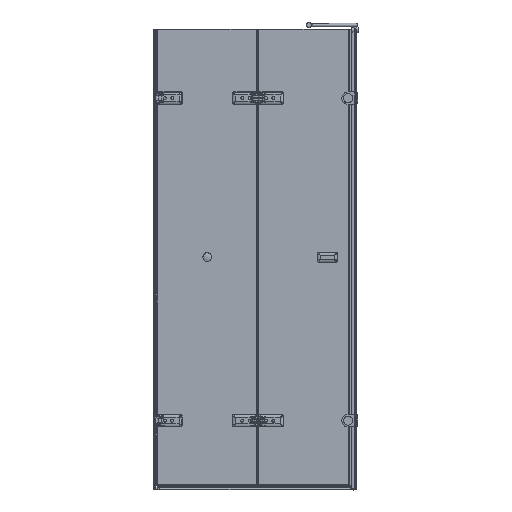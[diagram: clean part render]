
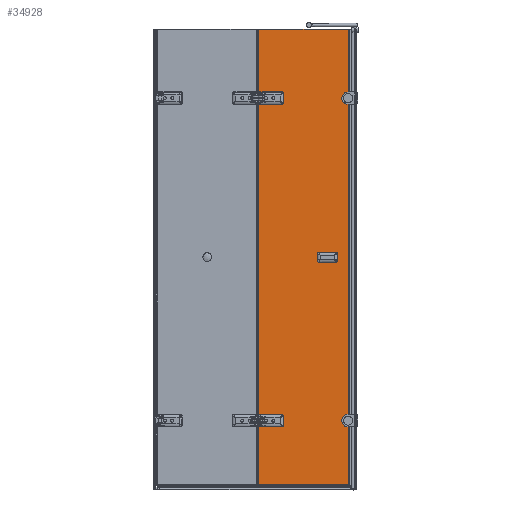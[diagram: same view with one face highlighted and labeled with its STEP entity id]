
A CAD part, left-side view. The second image highlights one B-rep face of the part: STEP entity #34928.
In plain terms, the highlighted planar face has unit normal (-1, 0, 0).
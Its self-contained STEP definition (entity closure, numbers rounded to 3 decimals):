
#2258=LINE($,#69144,#5393);
#2261=LINE($,#69178,#5396);
#2731=LINE($,#71365,#5866);
#3648=LINE($,#75248,#6783);
#3701=LINE($,#75381,#6836);
#3702=LINE($,#75385,#6837);
#3703=LINE($,#75388,#6838);
#3704=LINE($,#75390,#6839);
#3705=LINE($,#75391,#6840);
#3706=LINE($,#75393,#6841);
#3707=LINE($,#75397,#6842);
#3708=LINE($,#75400,#6843);
#5393=VECTOR($,#42761,1362.);
#5396=VECTOR($,#42772,256.4);
#5866=VECTOR($,#44144,281.);
#6783=VECTOR($,#46605,392.249);
#6836=VECTOR($,#46780,30.249);
#6837=VECTOR($,#46783,18.);
#6838=VECTOR($,#46786,30.249);
#6839=VECTOR($,#46787,392.249);
#6840=VECTOR($,#46788,1975.4);
#6841=VECTOR($,#46789,30.249);
#6842=VECTOR($,#46792,18.);
#6843=VECTOR($,#46795,30.249);
#7274=FACE_BOUND($,#11458,.T.);
#7275=FACE_BOUND($,#11459,.T.);
#7276=FACE_BOUND($,#11460,.T.);
#11458=EDGE_LOOP($,(#29775));
#11459=EDGE_LOOP($,(#29776));
#11460=EDGE_LOOP($,(#29777,#29778,#29779,#29780,#29781,#29782,#29783,#29784,
#29785,#29786,#29787,#29788,#29789,#29790,#29791,#29792));
#12217=CIRCLE($,#36420,6.5);
#12395=CIRCLE($,#36877,6.5);
#12734=CIRCLE($,#37908,10.);
#12735=CIRCLE($,#37909,10.);
#12736=CIRCLE($,#37910,10.);
#12737=CIRCLE($,#37911,10.);
#14351=VERTEX_POINT($,#68187);
#14539=VERTEX_POINT($,#69141);
#14540=VERTEX_POINT($,#69143);
#14546=VERTEX_POINT($,#69166);
#14547=VERTEX_POINT($,#69177);
#14820=VERTEX_POINT($,#70419);
#15004=VERTEX_POINT($,#71362);
#15005=VERTEX_POINT($,#71364);
#15748=VERTEX_POINT($,#75247);
#15767=VERTEX_POINT($,#75380);
#15768=VERTEX_POINT($,#75382);
#15769=VERTEX_POINT($,#75384);
#15770=VERTEX_POINT($,#75386);
#15771=VERTEX_POINT($,#75389);
#15772=VERTEX_POINT($,#75392);
#15773=VERTEX_POINT($,#75394);
#15774=VERTEX_POINT($,#75396);
#15775=VERTEX_POINT($,#75398);
#18163=EDGE_CURVE($,#14351,#14351,#12217,.T.);
#18463=EDGE_CURVE($,#14540,#14539,#2258,.T.);
#18471=EDGE_CURVE($,#14547,#14546,#2261,.T.);
#18900=EDGE_CURVE($,#14820,#14820,#12395,.T.);
#19193=EDGE_CURVE($,#15005,#15004,#2731,.T.);
#20448=EDGE_CURVE($,#15005,#15748,#3648,.T.);
#20512=EDGE_CURVE($,#14539,#15767,#3701,.T.);
#20513=EDGE_CURVE($,#15768,#15767,#12734,.T.);
#20514=EDGE_CURVE($,#15768,#15769,#3702,.T.);
#20515=EDGE_CURVE($,#15770,#15769,#12735,.T.);
#20516=EDGE_CURVE($,#15770,#14547,#3703,.T.);
#20517=EDGE_CURVE($,#15771,#14546,#3704,.T.);
#20518=EDGE_CURVE($,#15771,#15748,#3705,.T.);
#20519=EDGE_CURVE($,#15004,#15772,#3706,.T.);
#20520=EDGE_CURVE($,#15773,#15772,#12736,.T.);
#20521=EDGE_CURVE($,#15773,#15774,#3707,.T.);
#20522=EDGE_CURVE($,#15775,#15774,#12737,.T.);
#20523=EDGE_CURVE($,#15775,#14540,#3708,.T.);
#29775=ORIENTED_EDGE($,*,*,#18163,.T.);
#29776=ORIENTED_EDGE($,*,*,#18900,.T.);
#29777=ORIENTED_EDGE($,*,*,#18463,.T.);
#29778=ORIENTED_EDGE($,*,*,#20512,.T.);
#29779=ORIENTED_EDGE($,*,*,#20513,.F.);
#29780=ORIENTED_EDGE($,*,*,#20514,.T.);
#29781=ORIENTED_EDGE($,*,*,#20515,.F.);
#29782=ORIENTED_EDGE($,*,*,#20516,.T.);
#29783=ORIENTED_EDGE($,*,*,#18471,.T.);
#29784=ORIENTED_EDGE($,*,*,#20517,.F.);
#29785=ORIENTED_EDGE($,*,*,#20518,.T.);
#29786=ORIENTED_EDGE($,*,*,#20448,.F.);
#29787=ORIENTED_EDGE($,*,*,#19193,.T.);
#29788=ORIENTED_EDGE($,*,*,#20519,.T.);
#29789=ORIENTED_EDGE($,*,*,#20520,.F.);
#29790=ORIENTED_EDGE($,*,*,#20521,.T.);
#29791=ORIENTED_EDGE($,*,*,#20522,.F.);
#29792=ORIENTED_EDGE($,*,*,#20523,.T.);
#31408=PLANE($,#37907);
#34928=ADVANCED_FACE($,(#7274,#7275,#7276),#31408,.T.);
#36420=AXIS2_PLACEMENT_3D($,#68188,#42174,#42175);
#36877=AXIS2_PLACEMENT_3D($,#70420,#43566,#43567);
#37907=AXIS2_PLACEMENT_3D($,#75379,#46778,#46779);
#37908=AXIS2_PLACEMENT_3D($,#75383,#46781,#46782);
#37909=AXIS2_PLACEMENT_3D($,#75387,#46784,#46785);
#37910=AXIS2_PLACEMENT_3D($,#75395,#46790,#46791);
#37911=AXIS2_PLACEMENT_3D($,#75399,#46793,#46794);
#42174=DIRECTION('center_axis',(1.,0.,0.));
#42175=DIRECTION('ref_axis',(0.,1.,0.));
#42761=DIRECTION($,(0.,0.,-1.));
#42772=DIRECTION($,(0.,0.,-1.));
#43566=DIRECTION('center_axis',(1.,0.,0.));
#43567=DIRECTION('ref_axis',(0.,1.,0.));
#44144=DIRECTION($,(0.,0.,-1.));
#46605=DIRECTION($,(0.,-1.,0.));
#46778=DIRECTION('center_axis',(-1.,0.,0.));
#46779=DIRECTION('ref_axis',(0.,-1.,0.));
#46780=DIRECTION($,(0.,-1.,0.));
#46781=DIRECTION('center_axis',(-1.,0.,0.));
#46782=DIRECTION('ref_axis',(0.,-0.707,0.707));
#46783=DIRECTION($,(0.,0.,-1.));
#46784=DIRECTION('center_axis',(-1.,0.,0.));
#46785=DIRECTION('ref_axis',(0.,-0.707,-0.707));
#46786=DIRECTION($,(0.,1.,0.));
#46787=DIRECTION($,(0.,1.,0.));
#46788=DIRECTION($,(0.,0.,1.));
#46789=DIRECTION($,(0.,-1.,0.));
#46790=DIRECTION('center_axis',(-1.,0.,0.));
#46791=DIRECTION('ref_axis',(0.,-0.707,0.707));
#46792=DIRECTION($,(0.,0.,-1.));
#46793=DIRECTION('center_axis',(-1.,0.,0.));
#46794=DIRECTION('ref_axis',(0.,-0.707,-0.707));
#46795=DIRECTION($,(0.,1.,0.));
#68187=CARTESIAN_POINT('',(1240.119,318.456,-214.055));
#68188=CARTESIAN_POINT('Origin',(1240.119,324.956,-214.055));
#69141=CARTESIAN_POINT('',(1240.119,388.205,-195.055));
#69143=CARTESIAN_POINT('',(1240.119,388.205,1166.945));
#69144=CARTESIAN_POINT($,(1240.119,388.205,-204.055));
#69166=CARTESIAN_POINT('',(1240.119,388.205,-489.455));
#69177=CARTESIAN_POINT('',(1240.119,388.205,-233.055));
#69178=CARTESIAN_POINT($,(1240.119,388.205,-494.055));
#70419=CARTESIAN_POINT('',(1240.119,318.456,1185.945));
#70420=CARTESIAN_POINT('Origin',(1240.119,324.956,1185.945));
#71362=CARTESIAN_POINT('',(1240.119,388.205,1204.945));
#71364=CARTESIAN_POINT('',(1240.119,388.205,1485.945));
#71365=CARTESIAN_POINT($,(1240.119,388.205,1485.945));
#75247=CARTESIAN_POINT('',(1240.119,-4.044,1485.945));
#75248=CARTESIAN_POINT($,(1240.119,389.956,1485.945));
#75379=CARTESIAN_POINT('Origin',(1240.119,389.956,-494.055));
#75380=CARTESIAN_POINT('',(1240.119,357.956,-195.055));
#75381=CARTESIAN_POINT($,(1240.119,389.956,-195.055));
#75382=CARTESIAN_POINT('',(1240.119,347.956,-205.055));
#75383=CARTESIAN_POINT('Origin',(1240.119,357.956,-205.055));
#75384=CARTESIAN_POINT('',(1240.119,347.956,-223.055));
#75385=CARTESIAN_POINT($,(1240.119,347.956,-344.555));
#75386=CARTESIAN_POINT('',(1240.119,357.956,-233.055));
#75387=CARTESIAN_POINT('Origin',(1240.119,357.956,-223.055));
#75388=CARTESIAN_POINT($,(1240.119,368.956,-233.055));
#75389=CARTESIAN_POINT('',(1240.119,-4.044,-489.455));
#75390=CARTESIAN_POINT($,(1240.119,-14.044,-489.455));
#75391=CARTESIAN_POINT($,(1240.119,-4.044,-494.055));
#75392=CARTESIAN_POINT('',(1240.119,357.956,1204.945));
#75393=CARTESIAN_POINT($,(1240.119,389.956,1204.945));
#75394=CARTESIAN_POINT('',(1240.119,347.956,1194.945));
#75395=CARTESIAN_POINT('Origin',(1240.119,357.956,1194.945));
#75396=CARTESIAN_POINT('',(1240.119,347.956,1176.945));
#75397=CARTESIAN_POINT($,(1240.119,347.956,355.445));
#75398=CARTESIAN_POINT('',(1240.119,357.956,1166.945));
#75399=CARTESIAN_POINT('Origin',(1240.119,357.956,1176.945));
#75400=CARTESIAN_POINT($,(1240.119,368.956,1166.945));
